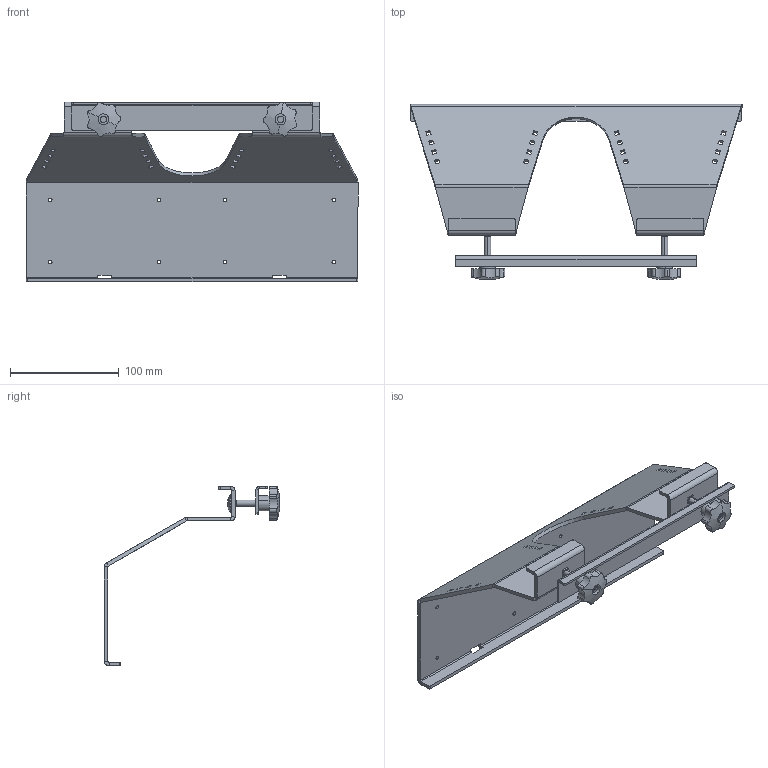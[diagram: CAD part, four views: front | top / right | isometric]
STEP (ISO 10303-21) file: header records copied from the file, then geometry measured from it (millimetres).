
FILE_DESCRIPTION (( 'STEP AP214' ), '1' );
FILE_NAME ('M81-PMK-1.STEP', '2023-04-25T14:08:21', ( '' ), ( '' ), 'SwSTEP 2.0', 'SolidWorks 2020', '' );
FILE_SCHEMA (( 'AUTOMOTIVE_DESIGN' ));
Length unit declared in the file: inch
Products named in the file (1): M81-PMK-1
Bounding box: 304.8 x 160.93 x 165.11 mm (x, y, z)
Volume: 231077.3 mm3; surface area: 152138.2 mm2
Topology: 6 solids, 6 shells, 296 faces, 748 edges, 466 vertices
Faces by surface type: plane 167, cylinder 111, bspline 10, sphere 8
Entity records: 13361 total; most frequent: CARTESIAN_POINT 2247, ORIENTED_EDGE 1496, DIRECTION 1416, EDGE_CURVE 748, LINE 498, VECTOR 498, VERTEX_POINT 466, AXIS2_PLACEMENT_3D 459
